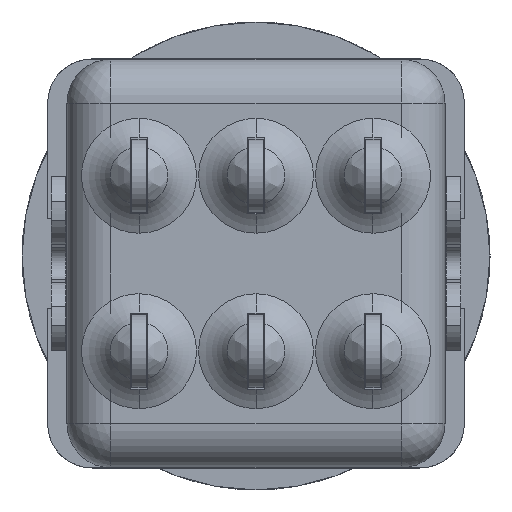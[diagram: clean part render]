
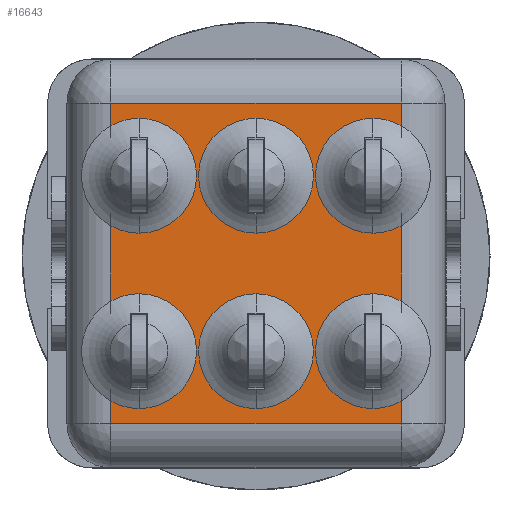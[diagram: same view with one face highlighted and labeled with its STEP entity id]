
A CAD part, front view. The second image highlights one B-rep face of the part: STEP entity #16643.
In plain terms, the highlighted planar face has unit normal (0, -1, 0).
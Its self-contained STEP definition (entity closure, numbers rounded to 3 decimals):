
#2914=CARTESIAN_POINT('',(-4.,-6.5,-3.));
#2915=DIRECTION('',(0.,1.,0.));
#2916=DIRECTION('',(0.,0.,-1.));
#2917=AXIS2_PLACEMENT_3D('',#2914,#2915,#2916);
#2919=CARTESIAN_POINT('',(-4.,-6.5,-3.));
#2920=DIRECTION('',(0.,1.,0.));
#2921=DIRECTION('',(0.,0.,1.));
#2922=AXIS2_PLACEMENT_3D('',#2919,#2920,#2921);
#2924=CARTESIAN_POINT('',(-4.,-6.5,-3.));
#2925=DIRECTION('',(0.,1.,0.));
#2926=DIRECTION('',(-0.491,0.,0.871));
#2927=AXIS2_PLACEMENT_3D('',#2924,#2925,#2926);
#2929=DIRECTION('',(0.,0.,1.));
#2930=VECTOR('',#2929,2.577);
#2931=CARTESIAN_POINT('',(-4.965,-6.5,-1.288));
#2932=LINE('',#2931,#2930);
#2933=CARTESIAN_POINT('',(-4.,-6.5,3.));
#2934=DIRECTION('',(0.,1.,0.));
#2935=DIRECTION('',(0.,0.,-1.));
#2936=AXIS2_PLACEMENT_3D('',#2933,#2934,#2935);
#2938=CARTESIAN_POINT('',(-4.,-6.5,3.));
#2939=DIRECTION('',(0.,1.,0.));
#2940=DIRECTION('',(0.,0.,1.));
#2941=AXIS2_PLACEMENT_3D('',#2938,#2939,#2940);
#2943=CARTESIAN_POINT('',(-4.,-6.5,3.));
#2944=DIRECTION('',(0.,1.,0.));
#2945=DIRECTION('',(-0.491,0.,0.871));
#2946=AXIS2_PLACEMENT_3D('',#2943,#2944,#2945);
#2948=DIRECTION('',(0.,0.,1.));
#2949=VECTOR('',#2948,0.773);
#2950=CARTESIAN_POINT('',(-4.965,-6.5,4.712));
#2951=LINE('',#2950,#2949);
#2952=DIRECTION('',(1.,0.,0.));
#2953=VECTOR('',#2952,9.93);
#2954=CARTESIAN_POINT('',(-4.965,-6.5,5.485));
#2955=LINE('',#2954,#2953);
#2956=DIRECTION('',(0.,0.,-1.));
#2957=VECTOR('',#2956,0.773);
#2958=CARTESIAN_POINT('',(4.965,-6.5,5.485));
#2959=LINE('',#2958,#2957);
#2960=CARTESIAN_POINT('',(4.,-6.5,3.));
#2961=DIRECTION('',(0.,1.,0.));
#2962=DIRECTION('',(0.,0.,1.));
#2963=AXIS2_PLACEMENT_3D('',#2960,#2961,#2962);
#2965=CARTESIAN_POINT('',(4.,-6.5,3.));
#2966=DIRECTION('',(0.,1.,0.));
#2967=DIRECTION('',(0.,0.,-1.));
#2968=AXIS2_PLACEMENT_3D('',#2965,#2966,#2967);
#2970=CARTESIAN_POINT('',(4.,-6.5,3.));
#2971=DIRECTION('',(0.,1.,0.));
#2972=DIRECTION('',(0.491,0.,-0.871));
#2973=AXIS2_PLACEMENT_3D('',#2970,#2971,#2972);
#2975=DIRECTION('',(0.,0.,-1.));
#2976=VECTOR('',#2975,2.577);
#2977=CARTESIAN_POINT('',(4.965,-6.5,1.288));
#2978=LINE('',#2977,#2976);
#2979=CARTESIAN_POINT('',(4.,-6.5,-3.));
#2980=DIRECTION('',(0.,1.,0.));
#2981=DIRECTION('',(0.,0.,1.));
#2982=AXIS2_PLACEMENT_3D('',#2979,#2980,#2981);
#2984=CARTESIAN_POINT('',(4.,-6.5,-3.));
#2985=DIRECTION('',(0.,1.,0.));
#2986=DIRECTION('',(0.,0.,-1.));
#2987=AXIS2_PLACEMENT_3D('',#2984,#2985,#2986);
#2989=CARTESIAN_POINT('',(4.,-6.5,-3.));
#2990=DIRECTION('',(0.,1.,0.));
#2991=DIRECTION('',(0.491,0.,-0.871));
#2992=AXIS2_PLACEMENT_3D('',#2989,#2990,#2991);
#2994=DIRECTION('',(0.,0.,-1.));
#2995=VECTOR('',#2994,0.773);
#2996=CARTESIAN_POINT('',(4.965,-6.5,-4.712));
#2997=LINE('',#2996,#2995);
#2998=DIRECTION('',(-1.,0.,0.));
#2999=VECTOR('',#2998,9.93);
#3000=CARTESIAN_POINT('',(4.965,-6.5,-5.485));
#3001=LINE('',#3000,#2999);
#3002=DIRECTION('',(0.,0.,1.));
#3003=VECTOR('',#3002,0.773);
#3004=CARTESIAN_POINT('',(-4.965,-6.5,-5.485));
#3005=LINE('',#3004,#3003);
#3006=CARTESIAN_POINT('',(0.,-6.5,3.));
#3007=DIRECTION('',(0.,1.,0.));
#3008=DIRECTION('',(0.,0.,1.));
#3009=AXIS2_PLACEMENT_3D('',#3006,#3007,#3008);
#3011=CARTESIAN_POINT('',(0.,-6.5,3.));
#3012=DIRECTION('',(0.,1.,0.));
#3013=DIRECTION('',(0.,0.,-1.));
#3014=AXIS2_PLACEMENT_3D('',#3011,#3012,#3013);
#3016=CARTESIAN_POINT('',(0.,-6.5,-3.));
#3017=DIRECTION('',(0.,1.,0.));
#3018=DIRECTION('',(0.,0.,1.));
#3019=AXIS2_PLACEMENT_3D('',#3016,#3017,#3018);
#3021=CARTESIAN_POINT('',(0.,-6.5,-3.));
#3022=DIRECTION('',(0.,1.,0.));
#3023=DIRECTION('',(0.,0.,-1.));
#3024=AXIS2_PLACEMENT_3D('',#3021,#3022,#3023);
#11892=CARTESIAN_POINT('',(4.965,-6.5,-5.485));
#11893=CARTESIAN_POINT('',(-4.965,-6.5,-5.485));
#11894=VERTEX_POINT('',#11892);
#11895=VERTEX_POINT('',#11893);
#11902=CARTESIAN_POINT('',(-4.965,-6.5,5.485));
#11903=CARTESIAN_POINT('',(4.965,-6.5,5.485));
#11904=VERTEX_POINT('',#11902);
#11905=VERTEX_POINT('',#11903);
#13750=CARTESIAN_POINT('',(-4.,-6.5,4.965));
#13751=CARTESIAN_POINT('',(-4.,-6.5,1.035));
#13752=VERTEX_POINT('',#13750);
#13753=VERTEX_POINT('',#13751);
#13754=CARTESIAN_POINT('',(-4.965,-6.5,1.288));
#13755=VERTEX_POINT('',#13754);
#13756=CARTESIAN_POINT('',(-4.965,-6.5,4.712));
#13757=VERTEX_POINT('',#13756);
#13784=CARTESIAN_POINT('',(0.,-6.5,4.965));
#13785=CARTESIAN_POINT('',(0.,-6.5,1.035));
#13786=VERTEX_POINT('',#13784);
#13787=VERTEX_POINT('',#13785);
#13814=CARTESIAN_POINT('',(4.,-6.5,4.965));
#13815=CARTESIAN_POINT('',(4.965,-6.5,4.712));
#13816=VERTEX_POINT('',#13814);
#13817=VERTEX_POINT('',#13815);
#13818=CARTESIAN_POINT('',(4.965,-6.5,1.288));
#13819=CARTESIAN_POINT('',(4.,-6.5,1.035));
#13820=VERTEX_POINT('',#13818);
#13821=VERTEX_POINT('',#13819);
#13848=CARTESIAN_POINT('',(4.,-6.5,-1.035));
#13849=CARTESIAN_POINT('',(4.965,-6.5,-1.288));
#13850=VERTEX_POINT('',#13848);
#13851=VERTEX_POINT('',#13849);
#13852=CARTESIAN_POINT('',(4.965,-6.5,-4.712));
#13853=CARTESIAN_POINT('',(4.,-6.5,-4.965));
#13854=VERTEX_POINT('',#13852);
#13855=VERTEX_POINT('',#13853);
#13882=CARTESIAN_POINT('',(0.,-6.5,-1.035));
#13883=CARTESIAN_POINT('',(0.,-6.5,-4.965));
#13884=VERTEX_POINT('',#13882);
#13885=VERTEX_POINT('',#13883);
#13912=CARTESIAN_POINT('',(-4.,-6.5,-4.965));
#13913=CARTESIAN_POINT('',(-4.965,-6.5,-4.712));
#13914=VERTEX_POINT('',#13912);
#13915=VERTEX_POINT('',#13913);
#13916=CARTESIAN_POINT('',(-4.965,-6.5,-1.288));
#13917=CARTESIAN_POINT('',(-4.,-6.5,-1.035));
#13918=VERTEX_POINT('',#13916);
#13919=VERTEX_POINT('',#13917);
#16589=CARTESIAN_POINT('',(-6.465,-6.5,-6.985));
#16590=DIRECTION('',(0.,-1.,0.));
#16591=DIRECTION('',(1.,0.,0.));
#16592=AXIS2_PLACEMENT_3D('',#16589,#16590,#16591);
#16593=PLANE('',#16592);
#16594=ORIENTED_EDGE('',*,*,#16567,.F.);
#16596=ORIENTED_EDGE('',*,*,#16595,.F.);
#16597=ORIENTED_EDGE('',*,*,#16570,.F.);
#16598=ORIENTED_EDGE('',*,*,#16546,.T.);
#16600=ORIENTED_EDGE('',*,*,#16599,.F.);
#16602=ORIENTED_EDGE('',*,*,#16601,.F.);
#16604=ORIENTED_EDGE('',*,*,#16603,.F.);
#16605=ORIENTED_EDGE('',*,*,#16542,.T.);
#16607=ORIENTED_EDGE('',*,*,#16606,.T.);
#16609=ORIENTED_EDGE('',*,*,#16608,.T.);
#16611=ORIENTED_EDGE('',*,*,#16610,.F.);
#16613=ORIENTED_EDGE('',*,*,#16612,.F.);
#16615=ORIENTED_EDGE('',*,*,#16614,.F.);
#16617=ORIENTED_EDGE('',*,*,#16616,.T.);
#16619=ORIENTED_EDGE('',*,*,#16618,.F.);
#16621=ORIENTED_EDGE('',*,*,#16620,.F.);
#16623=ORIENTED_EDGE('',*,*,#16622,.F.);
#16625=ORIENTED_EDGE('',*,*,#16624,.T.);
#16627=ORIENTED_EDGE('',*,*,#16626,.T.);
#16628=ORIENTED_EDGE('',*,*,#16535,.T.);
#16629=EDGE_LOOP('',(#16594,#16596,#16597,#16598,#16600,#16602,#16604,#16605,
#16607,#16609,#16611,#16613,#16615,#16617,#16619,#16621,#16623,#16625,#16627,
#16628));
#16630=FACE_OUTER_BOUND('',#16629,.F.);
#16632=ORIENTED_EDGE('',*,*,#16631,.F.);
#16634=ORIENTED_EDGE('',*,*,#16633,.F.);
#16635=EDGE_LOOP('',(#16632,#16634));
#16636=FACE_BOUND('',#16635,.F.);
#16638=ORIENTED_EDGE('',*,*,#16637,.F.);
#16640=ORIENTED_EDGE('',*,*,#16639,.F.);
#16641=EDGE_LOOP('',(#16638,#16640));
#16642=FACE_BOUND('',#16641,.F.);
#16643=ADVANCED_FACE('',(#16630,#16636,#16642),#16593,.T.);
#2918=CIRCLE('',#2917,1.965);
#2923=CIRCLE('',#2922,1.965);
#2928=CIRCLE('',#2927,1.965);
#2937=CIRCLE('',#2936,1.965);
#2942=CIRCLE('',#2941,1.965);
#2947=CIRCLE('',#2946,1.965);
#2964=CIRCLE('',#2963,1.965);
#2969=CIRCLE('',#2968,1.965);
#2974=CIRCLE('',#2973,1.965);
#2983=CIRCLE('',#2982,1.965);
#2988=CIRCLE('',#2987,1.965);
#2993=CIRCLE('',#2992,1.965);
#3010=CIRCLE('',#3009,1.965);
#3015=CIRCLE('',#3014,1.965);
#3020=CIRCLE('',#3019,1.965);
#3025=CIRCLE('',#3024,1.965);
#16535=EDGE_CURVE('',#11895,#13915,#3005,.T.);
#16542=EDGE_CURVE('',#13757,#11904,#2951,.T.);
#16546=EDGE_CURVE('',#13918,#13755,#2932,.T.);
#16567=EDGE_CURVE('',#13914,#13915,#2918,.T.);
#16570=EDGE_CURVE('',#13918,#13919,#2928,.T.);
#16595=EDGE_CURVE('',#13919,#13914,#2923,.T.);
#16599=EDGE_CURVE('',#13753,#13755,#2937,.T.);
#16601=EDGE_CURVE('',#13752,#13753,#2942,.T.);
#16603=EDGE_CURVE('',#13757,#13752,#2947,.T.);
#16606=EDGE_CURVE('',#11904,#11905,#2955,.T.);
#16608=EDGE_CURVE('',#11905,#13817,#2959,.T.);
#16610=EDGE_CURVE('',#13816,#13817,#2964,.T.);
#16612=EDGE_CURVE('',#13821,#13816,#2969,.T.);
#16614=EDGE_CURVE('',#13820,#13821,#2974,.T.);
#16616=EDGE_CURVE('',#13820,#13851,#2978,.T.);
#16618=EDGE_CURVE('',#13850,#13851,#2983,.T.);
#16620=EDGE_CURVE('',#13855,#13850,#2988,.T.);
#16622=EDGE_CURVE('',#13854,#13855,#2993,.T.);
#16624=EDGE_CURVE('',#13854,#11894,#2997,.T.);
#16626=EDGE_CURVE('',#11894,#11895,#3001,.T.);
#16631=EDGE_CURVE('',#13786,#13787,#3010,.T.);
#16633=EDGE_CURVE('',#13787,#13786,#3015,.T.);
#16637=EDGE_CURVE('',#13884,#13885,#3020,.T.);
#16639=EDGE_CURVE('',#13885,#13884,#3025,.T.);
